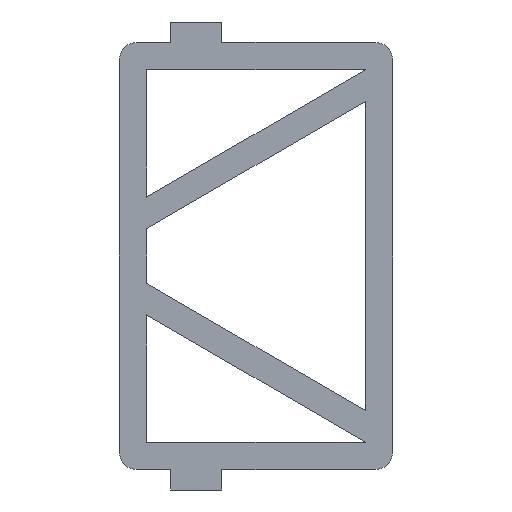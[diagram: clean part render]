
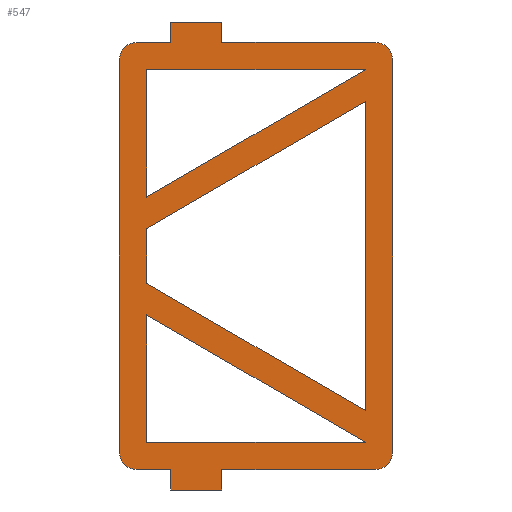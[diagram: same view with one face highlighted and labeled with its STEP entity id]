
A CAD part, front view. The second image highlights one B-rep face of the part: STEP entity #547.
In plain terms, the highlighted planar face has unit normal (0, -1, 0).
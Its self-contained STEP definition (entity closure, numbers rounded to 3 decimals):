
#15=FACE_BOUND('',#76,.T.);
#16=FACE_BOUND('',#77,.T.);
#17=FACE_BOUND('',#78,.T.);
#22=PLANE('',#591);
#47=FACE_OUTER_BOUND('',#75,.T.);
#75=EDGE_LOOP('',(#393,#394,#395,#396,#397,#398,#399,#400,#401,#402,#403,
#404,#405,#406,#407,#408));
#76=EDGE_LOOP('',(#409,#410,#411));
#77=EDGE_LOOP('',(#412,#413,#414,#415));
#78=EDGE_LOOP('',(#416,#417,#418));
#109=LINE('',#779,#179);
#112=LINE('',#785,#182);
#113=LINE('',#787,#183);
#114=LINE('',#789,#184);
#115=LINE('',#791,#185);
#116=LINE('',#793,#186);
#117=LINE('',#797,#187);
#118=LINE('',#801,#188);
#119=LINE('',#803,#189);
#120=LINE('',#805,#190);
#121=LINE('',#807,#191);
#122=LINE('',#809,#192);
#123=LINE('',#813,#193);
#124=LINE('',#815,#194);
#125=LINE('',#816,#195);
#126=LINE('',#819,#196);
#127=LINE('',#821,#197);
#128=LINE('',#823,#198);
#129=LINE('',#824,#199);
#130=LINE('',#827,#200);
#131=LINE('',#829,#201);
#132=LINE('',#830,#202);
#179=VECTOR('',#635,10.);
#182=VECTOR('',#640,10.);
#183=VECTOR('',#641,10.);
#184=VECTOR('',#642,10.);
#185=VECTOR('',#643,10.);
#186=VECTOR('',#644,10.);
#187=VECTOR('',#647,10.);
#188=VECTOR('',#650,10.);
#189=VECTOR('',#651,10.);
#190=VECTOR('',#652,10.);
#191=VECTOR('',#653,10.);
#192=VECTOR('',#654,10.);
#193=VECTOR('',#657,10.);
#194=VECTOR('',#658,10.);
#195=VECTOR('',#659,10.);
#196=VECTOR('',#660,10.);
#197=VECTOR('',#661,10.);
#198=VECTOR('',#662,10.);
#199=VECTOR('',#663,10.);
#200=VECTOR('',#664,10.);
#201=VECTOR('',#665,10.);
#202=VECTOR('',#666,10.);
#248=CIRCLE('',#589,5.);
#249=CIRCLE('',#592,5.);
#250=CIRCLE('',#593,5.);
#251=CIRCLE('',#594,5.);
#257=VERTEX_POINT('',#772);
#258=VERTEX_POINT('',#774);
#259=VERTEX_POINT('',#778);
#261=VERTEX_POINT('',#784);
#262=VERTEX_POINT('',#786);
#263=VERTEX_POINT('',#788);
#264=VERTEX_POINT('',#790);
#265=VERTEX_POINT('',#792);
#266=VERTEX_POINT('',#794);
#267=VERTEX_POINT('',#796);
#268=VERTEX_POINT('',#798);
#269=VERTEX_POINT('',#800);
#270=VERTEX_POINT('',#802);
#271=VERTEX_POINT('',#804);
#272=VERTEX_POINT('',#806);
#273=VERTEX_POINT('',#808);
#274=VERTEX_POINT('',#811);
#275=VERTEX_POINT('',#812);
#276=VERTEX_POINT('',#814);
#277=VERTEX_POINT('',#817);
#278=VERTEX_POINT('',#818);
#279=VERTEX_POINT('',#820);
#280=VERTEX_POINT('',#822);
#281=VERTEX_POINT('',#825);
#282=VERTEX_POINT('',#826);
#283=VERTEX_POINT('',#828);
#309=EDGE_CURVE('',#257,#258,#248,.T.);
#311=EDGE_CURVE('',#258,#259,#109,.T.);
#314=EDGE_CURVE('',#261,#257,#112,.T.);
#315=EDGE_CURVE('',#262,#261,#113,.T.);
#316=EDGE_CURVE('',#263,#262,#114,.T.);
#317=EDGE_CURVE('',#264,#263,#115,.T.);
#318=EDGE_CURVE('',#265,#264,#116,.T.);
#319=EDGE_CURVE('',#266,#265,#249,.T.);
#320=EDGE_CURVE('',#266,#267,#117,.T.);
#321=EDGE_CURVE('',#268,#267,#250,.T.);
#322=EDGE_CURVE('',#268,#269,#118,.T.);
#323=EDGE_CURVE('',#270,#269,#119,.T.);
#324=EDGE_CURVE('',#271,#270,#120,.T.);
#325=EDGE_CURVE('',#272,#271,#121,.T.);
#326=EDGE_CURVE('',#272,#273,#122,.T.);
#327=EDGE_CURVE('',#259,#273,#251,.T.);
#328=EDGE_CURVE('',#274,#275,#123,.T.);
#329=EDGE_CURVE('',#275,#276,#124,.T.);
#330=EDGE_CURVE('',#276,#274,#125,.T.);
#331=EDGE_CURVE('',#277,#278,#126,.T.);
#332=EDGE_CURVE('',#278,#279,#127,.T.);
#333=EDGE_CURVE('',#279,#280,#128,.T.);
#334=EDGE_CURVE('',#280,#277,#129,.T.);
#335=EDGE_CURVE('',#281,#282,#130,.T.);
#336=EDGE_CURVE('',#282,#283,#131,.T.);
#337=EDGE_CURVE('',#283,#281,#132,.T.);
#393=ORIENTED_EDGE('',*,*,#309,.F.);
#394=ORIENTED_EDGE('',*,*,#314,.F.);
#395=ORIENTED_EDGE('',*,*,#315,.F.);
#396=ORIENTED_EDGE('',*,*,#316,.F.);
#397=ORIENTED_EDGE('',*,*,#317,.F.);
#398=ORIENTED_EDGE('',*,*,#318,.F.);
#399=ORIENTED_EDGE('',*,*,#319,.F.);
#400=ORIENTED_EDGE('',*,*,#320,.T.);
#401=ORIENTED_EDGE('',*,*,#321,.F.);
#402=ORIENTED_EDGE('',*,*,#322,.T.);
#403=ORIENTED_EDGE('',*,*,#323,.F.);
#404=ORIENTED_EDGE('',*,*,#324,.F.);
#405=ORIENTED_EDGE('',*,*,#325,.F.);
#406=ORIENTED_EDGE('',*,*,#326,.T.);
#407=ORIENTED_EDGE('',*,*,#327,.F.);
#408=ORIENTED_EDGE('',*,*,#311,.F.);
#409=ORIENTED_EDGE('',*,*,#328,.T.);
#410=ORIENTED_EDGE('',*,*,#329,.T.);
#411=ORIENTED_EDGE('',*,*,#330,.T.);
#412=ORIENTED_EDGE('',*,*,#331,.T.);
#413=ORIENTED_EDGE('',*,*,#332,.T.);
#414=ORIENTED_EDGE('',*,*,#333,.T.);
#415=ORIENTED_EDGE('',*,*,#334,.T.);
#416=ORIENTED_EDGE('',*,*,#335,.T.);
#417=ORIENTED_EDGE('',*,*,#336,.T.);
#418=ORIENTED_EDGE('',*,*,#337,.T.);
#547=ADVANCED_FACE('',(#47,#15,#16,#17),#22,.F.);
#589=AXIS2_PLACEMENT_3D('',#775,#630,#631);
#591=AXIS2_PLACEMENT_3D('',#783,#638,#639);
#592=AXIS2_PLACEMENT_3D('',#795,#645,#646);
#593=AXIS2_PLACEMENT_3D('',#799,#648,#649);
#594=AXIS2_PLACEMENT_3D('',#810,#655,#656);
#630=DIRECTION('center_axis',(0.,1.,0.));
#631=DIRECTION('ref_axis',(0.707,0.,0.707));
#635=DIRECTION('',(0.,0.,-1.));
#638=DIRECTION('center_axis',(0.,1.,0.));
#639=DIRECTION('ref_axis',(1.,0.,0.));
#640=DIRECTION('',(1.,0.,0.));
#641=DIRECTION('',(0.,0.,-1.));
#642=DIRECTION('',(1.,0.,0.));
#643=DIRECTION('',(0.,0.,1.));
#644=DIRECTION('',(1.,0.,0.));
#645=DIRECTION('center_axis',(0.,1.,0.));
#646=DIRECTION('ref_axis',(-0.707,0.,0.707));
#647=DIRECTION('',(0.,0.,-1.));
#648=DIRECTION('center_axis',(0.,1.,0.));
#649=DIRECTION('ref_axis',(-0.707,0.,-0.707));
#650=DIRECTION('',(1.,0.,0.));
#651=DIRECTION('',(0.,0.,1.));
#652=DIRECTION('',(-1.,0.,0.));
#653=DIRECTION('',(0.,0.,-1.));
#654=DIRECTION('',(1.,0.,0.));
#655=DIRECTION('center_axis',(0.,1.,0.));
#656=DIRECTION('ref_axis',(0.707,0.,-0.707));
#657=DIRECTION('',(-1.,0.,0.));
#658=DIRECTION('',(0.,0.,1.));
#659=DIRECTION('',(0.864,0.,-0.503));
#660=DIRECTION('',(0.864,0.,0.503));
#661=DIRECTION('',(0.,0.,-1.));
#662=DIRECTION('',(-0.864,0.,0.503));
#663=DIRECTION('',(0.,0.,1.));
#664=DIRECTION('',(-0.864,0.,-0.503));
#665=DIRECTION('',(0.,0.,1.));
#666=DIRECTION('',(1.,0.,0.));
#772=CARTESIAN_POINT('',(35.,0.,62.5));
#774=CARTESIAN_POINT('',(40.,0.,57.5));
#775=CARTESIAN_POINT('Origin',(35.,0.,57.5));
#778=CARTESIAN_POINT('',(40.,0.,-57.5));
#779=CARTESIAN_POINT('',(40.,0.,62.5));
#783=CARTESIAN_POINT('Origin',(0.,0.,0.));
#784=CARTESIAN_POINT('',(-10.,0.,62.5));
#785=CARTESIAN_POINT('',(-40.,0.,62.5));
#786=CARTESIAN_POINT('',(-10.,0.,68.5));
#787=CARTESIAN_POINT('',(-10.,0.,68.5));
#788=CARTESIAN_POINT('',(-25.,0.,68.5));
#789=CARTESIAN_POINT('',(-25.,0.,68.5));
#790=CARTESIAN_POINT('',(-25.,0.,62.5));
#791=CARTESIAN_POINT('',(-25.,0.,62.5));
#792=CARTESIAN_POINT('',(-35.,0.,62.5));
#793=CARTESIAN_POINT('',(-40.,0.,62.5));
#794=CARTESIAN_POINT('',(-40.,0.,57.5));
#795=CARTESIAN_POINT('Origin',(-35.,0.,57.5));
#796=CARTESIAN_POINT('',(-40.,0.,-57.5));
#797=CARTESIAN_POINT('',(-40.,0.,62.5));
#798=CARTESIAN_POINT('',(-35.,0.,-62.5));
#799=CARTESIAN_POINT('Origin',(-35.,0.,-57.5));
#800=CARTESIAN_POINT('',(-25.,0.,-62.5));
#801=CARTESIAN_POINT('',(-40.,0.,-62.5));
#802=CARTESIAN_POINT('',(-25.,0.,-68.5));
#803=CARTESIAN_POINT('',(-25.,0.,-68.5));
#804=CARTESIAN_POINT('',(-10.,0.,-68.5));
#805=CARTESIAN_POINT('',(-10.,0.,-68.5));
#806=CARTESIAN_POINT('',(-10.,0.,-62.5));
#807=CARTESIAN_POINT('',(-10.,0.,-62.5));
#808=CARTESIAN_POINT('',(35.,0.,-62.5));
#809=CARTESIAN_POINT('',(-40.,0.,-62.5));
#810=CARTESIAN_POINT('Origin',(35.,0.,-57.5));
#811=CARTESIAN_POINT('',(32.,0.,-54.5));
#812=CARTESIAN_POINT('',(-32.,0.,-54.5));
#813=CARTESIAN_POINT('',(-16.,0.,-54.5));
#814=CARTESIAN_POINT('',(-32.,0.,-17.256));
#815=CARTESIAN_POINT('',(-32.,0.,-8.628));
#816=CARTESIAN_POINT('',(8.202,0.,-40.651));
#817=CARTESIAN_POINT('',(-32.,0.,8.));
#818=CARTESIAN_POINT('',(32.,0.,45.244));
#819=CARTESIAN_POINT('',(10.213,0.,32.566));
#820=CARTESIAN_POINT('',(32.,0.,-45.244));
#821=CARTESIAN_POINT('',(32.,0.,-22.622));
#822=CARTESIAN_POINT('',(-32.,0.,-8.));
#823=CARTESIAN_POINT('',(-21.787,0.,-13.944));
#824=CARTESIAN_POINT('',(-32.,0.,4.));
#825=CARTESIAN_POINT('',(32.,0.,54.5));
#826=CARTESIAN_POINT('',(-32.,0.,17.256));
#827=CARTESIAN_POINT('',(-23.798,0.,22.029));
#828=CARTESIAN_POINT('',(-32.,0.,54.5));
#829=CARTESIAN_POINT('',(-32.,0.,27.25));
#830=CARTESIAN_POINT('',(16.,0.,54.5));
